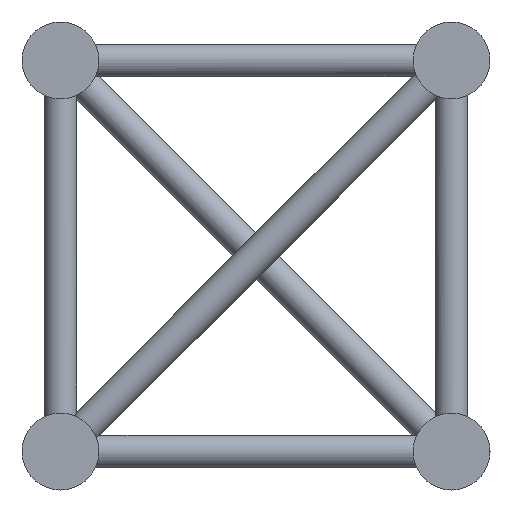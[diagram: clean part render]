
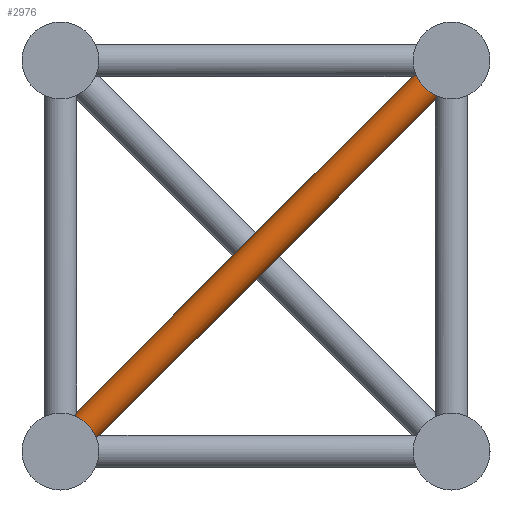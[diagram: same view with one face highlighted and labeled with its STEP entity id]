
A CAD part, left-side view. The second image highlights one B-rep face of the part: STEP entity #2976.
In plain terms, the highlighted cylindrical face has radius 12.5 mm (diameter 25 mm), a full revolution.
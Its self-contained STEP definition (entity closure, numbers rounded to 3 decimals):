
#30=ELLIPSE('',#3241,17.678,12.5);
#31=ELLIPSE('',#3242,32.664,12.5);
#32=ELLIPSE('',#3243,17.678,12.5);
#33=ELLIPSE('',#3245,17.678,12.5);
#34=ELLIPSE('',#3246,32.664,12.5);
#35=ELLIPSE('',#3247,17.678,12.5);
#36=ELLIPSE('',#3249,32.664,12.5);
#37=ELLIPSE('',#3252,32.664,12.5);
#154=FACE_BOUND('',#960,.T.);
#407=B_SPLINE_CURVE_WITH_KNOTS('',3,(#6622,#6623,#6624,#6625,#6626,#6627),
 .UNSPECIFIED.,.F.,.F.,(4,2,4),(1.913,1.922,1.93),
 .UNSPECIFIED.);
#408=B_SPLINE_CURVE_WITH_KNOTS('',3,(#6631,#6632,#6633,#6634,#6635,#6636),
 .UNSPECIFIED.,.F.,.F.,(4,2,4),(5.757,5.766,5.774),
 .UNSPECIFIED.);
#529=CYLINDRICAL_SURFACE('',#3240,12.5);
#656=FACE_OUTER_BOUND('',#959,.T.);
#959=EDGE_LOOP('',(#2276,#2277,#2278,#2279,#2280,#2281,#2282,#2283,#2284,
#2285,#2286,#2287));
#960=EDGE_LOOP('',(#2288,#2289,#2290,#2291,#2292,#2293));
#1254=CIRCLE('',#3238,12.5);
#1255=CIRCLE('',#3239,12.5);
#1256=CIRCLE('',#3244,12.5);
#1257=CIRCLE('',#3248,12.5);
#1258=CIRCLE('',#3250,12.5);
#1259=CIRCLE('',#3251,12.5);
#1260=CIRCLE('',#3253,12.5);
#1261=CIRCLE('',#3254,12.5);
#1336=VERTEX_POINT('',#4333);
#1337=VERTEX_POINT('',#4334);
#1420=VERTEX_POINT('',#6620);
#1421=VERTEX_POINT('',#6621);
#1422=VERTEX_POINT('',#6628);
#1423=VERTEX_POINT('',#6630);
#1503=VERTEX_POINT('',#8814);
#1504=VERTEX_POINT('',#8815);
#1505=VERTEX_POINT('',#8820);
#1506=VERTEX_POINT('',#8821);
#1507=VERTEX_POINT('',#8823);
#1508=VERTEX_POINT('',#8825);
#1509=VERTEX_POINT('',#8828);
#1510=VERTEX_POINT('',#8830);
#1511=VERTEX_POINT('',#8834);
#1512=VERTEX_POINT('',#8835);
#1513=VERTEX_POINT('',#8838);
#1514=VERTEX_POINT('',#8840);
#1691=EDGE_CURVE('',#1420,#1421,#407,.T.);
#1693=EDGE_CURVE('',#1422,#1423,#408,.T.);
#1808=EDGE_CURVE('',#1503,#1422,#1254,.T.);
#1809=EDGE_CURVE('',#1421,#1504,#1255,.T.);
#1810=EDGE_CURVE('',#1505,#1506,#30,.T.);
#1811=EDGE_CURVE('',#1507,#1505,#31,.T.);
#1812=EDGE_CURVE('',#1508,#1507,#32,.T.);
#1813=EDGE_CURVE('',#1423,#1508,#1256,.T.);
#1814=EDGE_CURVE('',#1509,#1503,#33,.T.);
#1815=EDGE_CURVE('',#1510,#1509,#34,.T.);
#1816=EDGE_CURVE('',#1504,#1510,#35,.T.);
#1817=EDGE_CURVE('',#1506,#1420,#1257,.T.);
#1818=EDGE_CURVE('',#1511,#1512,#36,.T.);
#1819=EDGE_CURVE('',#1336,#1511,#1258,.T.);
#1820=EDGE_CURVE('',#1513,#1336,#1259,.T.);
#1821=EDGE_CURVE('',#1514,#1513,#37,.T.);
#1822=EDGE_CURVE('',#1337,#1514,#1260,.T.);
#1823=EDGE_CURVE('',#1512,#1337,#1261,.T.);
#2276=ORIENTED_EDGE('',*,*,#1810,.F.);
#2277=ORIENTED_EDGE('',*,*,#1811,.F.);
#2278=ORIENTED_EDGE('',*,*,#1812,.F.);
#2279=ORIENTED_EDGE('',*,*,#1813,.F.);
#2280=ORIENTED_EDGE('',*,*,#1693,.F.);
#2281=ORIENTED_EDGE('',*,*,#1808,.F.);
#2282=ORIENTED_EDGE('',*,*,#1814,.F.);
#2283=ORIENTED_EDGE('',*,*,#1815,.F.);
#2284=ORIENTED_EDGE('',*,*,#1816,.F.);
#2285=ORIENTED_EDGE('',*,*,#1809,.F.);
#2286=ORIENTED_EDGE('',*,*,#1691,.F.);
#2287=ORIENTED_EDGE('',*,*,#1817,.F.);
#2288=ORIENTED_EDGE('',*,*,#1818,.F.);
#2289=ORIENTED_EDGE('',*,*,#1819,.F.);
#2290=ORIENTED_EDGE('',*,*,#1820,.F.);
#2291=ORIENTED_EDGE('',*,*,#1821,.F.);
#2292=ORIENTED_EDGE('',*,*,#1822,.F.);
#2293=ORIENTED_EDGE('',*,*,#1823,.F.);
#2976=ADVANCED_FACE('',(#656,#154),#529,.T.);
#3238=AXIS2_PLACEMENT_3D('',#8817,#3748,#3749);
#3239=AXIS2_PLACEMENT_3D('',#8818,#3750,#3751);
#3240=AXIS2_PLACEMENT_3D('',#8819,#3752,#3753);
#3241=AXIS2_PLACEMENT_3D('',#8822,#3754,#3755);
#3242=AXIS2_PLACEMENT_3D('',#8824,#3756,#3757);
#3243=AXIS2_PLACEMENT_3D('',#8826,#3758,#3759);
#3244=AXIS2_PLACEMENT_3D('',#8827,#3760,#3761);
#3245=AXIS2_PLACEMENT_3D('',#8829,#3762,#3763);
#3246=AXIS2_PLACEMENT_3D('',#8831,#3764,#3765);
#3247=AXIS2_PLACEMENT_3D('',#8832,#3766,#3767);
#3248=AXIS2_PLACEMENT_3D('',#8833,#3768,#3769);
#3249=AXIS2_PLACEMENT_3D('',#8836,#3770,#3771);
#3250=AXIS2_PLACEMENT_3D('',#8837,#3772,#3773);
#3251=AXIS2_PLACEMENT_3D('',#8839,#3774,#3775);
#3252=AXIS2_PLACEMENT_3D('',#8841,#3776,#3777);
#3253=AXIS2_PLACEMENT_3D('',#8842,#3778,#3779);
#3254=AXIS2_PLACEMENT_3D('',#8843,#3780,#3781);
#3748=DIRECTION('center_axis',(0.,-0.707,
0.707));
#3749=DIRECTION('ref_axis',(0.,0.707,0.707));
#3750=DIRECTION('center_axis',(0.,-0.707,
0.707));
#3751=DIRECTION('ref_axis',(0.,0.707,0.707));
#3752=DIRECTION('center_axis',(0.,-0.707,
0.707));
#3753=DIRECTION('ref_axis',(0.,0.707,0.707));
#3754=DIRECTION('center_axis',(0.,1.,0.));
#3755=DIRECTION('ref_axis',(0.,0.,1.));
#3756=DIRECTION('center_axis',(0.,0.383,0.924));
#3757=DIRECTION('ref_axis',(0.,0.924,-0.383));
#3758=DIRECTION('center_axis',(0.,1.,0.));
#3759=DIRECTION('ref_axis',(0.,0.,1.));
#3760=DIRECTION('center_axis',(0.,-0.707,
0.707));
#3761=DIRECTION('ref_axis',(0.,0.707,0.707));
#3762=DIRECTION('center_axis',(0.,0.,
-1.));
#3763=DIRECTION('ref_axis',(0.,1.,0.));
#3764=DIRECTION('center_axis',(0.,-0.924,
-0.383));
#3765=DIRECTION('ref_axis',(0.,-0.383,0.924));
#3766=DIRECTION('center_axis',(0.,0.,
-1.));
#3767=DIRECTION('ref_axis',(0.,1.,0.));
#3768=DIRECTION('center_axis',(0.,-0.707,
0.707));
#3769=DIRECTION('ref_axis',(0.,0.707,0.707));
#3770=DIRECTION('center_axis',(0.,-0.383,-0.924));
#3771=DIRECTION('ref_axis',(0.,0.924,-0.383));
#3772=DIRECTION('center_axis',(0.,0.707,
-0.707));
#3773=DIRECTION('ref_axis',(0.,0.707,0.707));
#3774=DIRECTION('center_axis',(0.,0.707,
-0.707));
#3775=DIRECTION('ref_axis',(0.,0.707,0.707));
#3776=DIRECTION('center_axis',(0.,0.924,0.383));
#3777=DIRECTION('ref_axis',(0.,-0.383,0.924));
#3778=DIRECTION('center_axis',(0.,0.707,
-0.707));
#3779=DIRECTION('ref_axis',(0.,0.707,0.707));
#3780=DIRECTION('center_axis',(0.,0.707,
-0.707));
#3781=DIRECTION('ref_axis',(0.,0.707,0.707));
#4333=CARTESIAN_POINT('',(105.,281.322,-281.322));
#4334=CARTESIAN_POINT('',(80.,281.322,-281.322));
#6620=CARTESIAN_POINT('',(80.,17.738,-17.618));
#6621=CARTESIAN_POINT('',(80.,17.618,-17.738));
#6622=CARTESIAN_POINT('Ctrl Pts',(80.,17.738,-17.618));
#6623=CARTESIAN_POINT('Ctrl Pts',(80.,17.718,-17.638));
#6624=CARTESIAN_POINT('Ctrl Pts',(80.,17.698,-17.658));
#6625=CARTESIAN_POINT('Ctrl Pts',(80.,17.658,-17.698));
#6626=CARTESIAN_POINT('Ctrl Pts',(80.,17.638,-17.718));
#6627=CARTESIAN_POINT('Ctrl Pts',(80.,17.618,-17.738));
#6628=CARTESIAN_POINT('',(105.,17.618,-17.738));
#6630=CARTESIAN_POINT('',(105.,17.738,-17.618));
#6631=CARTESIAN_POINT('Ctrl Pts',(105.,17.618,-17.738));
#6632=CARTESIAN_POINT('Ctrl Pts',(105.,17.638,-17.718));
#6633=CARTESIAN_POINT('Ctrl Pts',(105.,17.658,-17.698));
#6634=CARTESIAN_POINT('Ctrl Pts',(105.,17.698,-17.658));
#6635=CARTESIAN_POINT('Ctrl Pts',(105.,17.718,-17.638));
#6636=CARTESIAN_POINT('Ctrl Pts',(105.,17.738,-17.618));
#8814=CARTESIAN_POINT('',(99.501,10.355,-25.));
#8815=CARTESIAN_POINT('',(85.499,10.355,-25.));
#8817=CARTESIAN_POINT('Origin',(92.5,17.678,-17.678));
#8818=CARTESIAN_POINT('Origin',(92.5,17.678,-17.678));
#8819=CARTESIAN_POINT('Origin',(92.5,281.322,-281.322));
#8820=CARTESIAN_POINT('',(85.499,25.,-10.355));
#8821=CARTESIAN_POINT('',(85.499,25.,-10.355));
#8822=CARTESIAN_POINT('Origin',(92.5,25.,-25.));
#8823=CARTESIAN_POINT('',(99.501,25.,-10.355));
#8824=CARTESIAN_POINT('Origin',(92.5,0.,0.));
#8825=CARTESIAN_POINT('',(99.501,25.,-10.355));
#8826=CARTESIAN_POINT('Origin',(92.5,25.,-25.));
#8827=CARTESIAN_POINT('Origin',(92.5,17.678,-17.678));
#8828=CARTESIAN_POINT('',(99.501,10.355,-25.));
#8829=CARTESIAN_POINT('Origin',(92.5,25.,-25.));
#8830=CARTESIAN_POINT('',(85.499,10.355,-25.));
#8831=CARTESIAN_POINT('Origin',(92.5,0.,0.));
#8832=CARTESIAN_POINT('Origin',(92.5,25.,-25.));
#8833=CARTESIAN_POINT('Origin',(92.5,17.678,-17.678));
#8834=CARTESIAN_POINT('',(99.501,274.,-288.645));
#8835=CARTESIAN_POINT('',(85.499,274.,-288.645));
#8836=CARTESIAN_POINT('Origin',(92.5,299.,-299.));
#8837=CARTESIAN_POINT('Origin',(92.5,281.322,-281.322));
#8838=CARTESIAN_POINT('',(99.501,288.645,-274.));
#8839=CARTESIAN_POINT('Origin',(92.5,281.322,-281.322));
#8840=CARTESIAN_POINT('',(85.499,288.645,-274.));
#8841=CARTESIAN_POINT('Origin',(92.5,299.,-299.));
#8842=CARTESIAN_POINT('Origin',(92.5,281.322,-281.322));
#8843=CARTESIAN_POINT('Origin',(92.5,281.322,-281.322));
